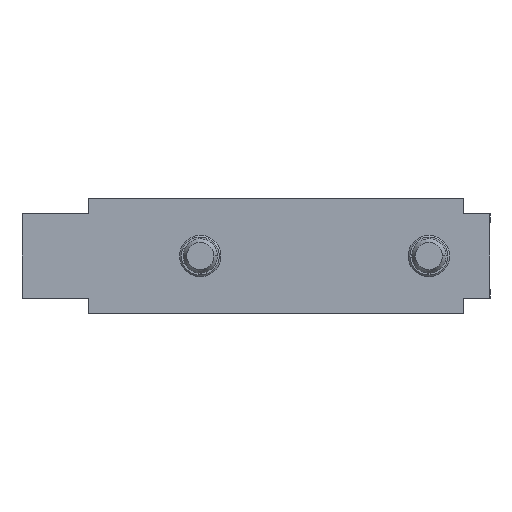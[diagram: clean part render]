
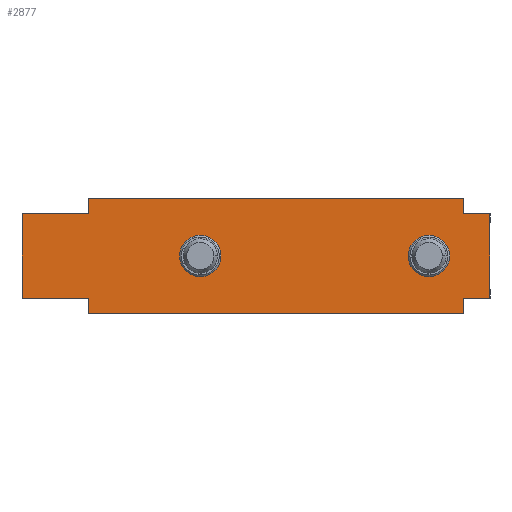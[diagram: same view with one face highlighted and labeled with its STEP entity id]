
A CAD part, left-side view. The second image highlights one B-rep face of the part: STEP entity #2877.
In plain terms, the highlighted planar face has unit normal (-1, 0, 0).
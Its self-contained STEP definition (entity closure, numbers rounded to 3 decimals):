
#13 = VECTOR ( 'NONE', #2948, 1000. ) ;
#14 = LINE ( 'NONE', #2947, #13 ) ;
#48 = VECTOR ( 'NONE', #2970, 1000. ) ;
#52 = LINE ( 'NONE', #2967, #48 ) ;
#90 = ORIENTED_EDGE ( 'NONE', *, *, #667, .F. ) ;
#153 = ORIENTED_EDGE ( 'NONE', *, *, #641, .F. ) ;
#154 = ORIENTED_EDGE ( 'NONE', *, *, #398, .F. ) ;
#155 = ORIENTED_EDGE ( 'NONE', *, *, #662, .F. ) ;
#158 = ORIENTED_EDGE ( 'NONE', *, *, #822, .F. ) ;
#198 = ORIENTED_EDGE ( 'NONE', *, *, #435, .F. ) ;
#199 = ORIENTED_EDGE ( 'NONE', *, *, #495, .F. ) ;
#200 = ORIENTED_EDGE ( 'NONE', *, *, #750, .F. ) ;
#202 = ORIENTED_EDGE ( 'NONE', *, *, #434, .T. ) ;
#231 = ORIENTED_EDGE ( 'NONE', *, *, #581, .T. ) ;
#235 = ORIENTED_EDGE ( 'NONE', *, *, #530, .T. ) ;
#236 = ORIENTED_EDGE ( 'NONE', *, *, #414, .F. ) ;
#237 = ORIENTED_EDGE ( 'NONE', *, *, #710, .F. ) ;
#238 = ORIENTED_EDGE ( 'NONE', *, *, #736, .F. ) ;
#239 = ORIENTED_EDGE ( 'NONE', *, *, #462, .F. ) ;
#240 = ORIENTED_EDGE ( 'NONE', *, *, #492, .F. ) ;
#250 = CARTESIAN_POINT ( 'NONE',  ( 0.65, 47.6, -8. ) ) ;
#254 = CARTESIAN_POINT ( 'NONE',  ( 0.65, -4.9, -8. ) ) ;
#255 = CARTESIAN_POINT ( 'NONE',  ( 0.65, 29.1, 0. ) ) ;
#257 = CARTESIAN_POINT ( 'NONE',  ( 0.65, 47.6, 8. ) ) ;
#258 = CARTESIAN_POINT ( 'NONE',  ( 0.65, -4.9, 5.9 ) ) ;
#260 = CARTESIAN_POINT ( 'NONE',  ( 0.65, -4.9, 8. ) ) ;
#262 = CARTESIAN_POINT ( 'NONE',  ( 0.65, 34.9, 0. ) ) ;
#278 = CARTESIAN_POINT ( 'NONE',  ( 0.65, -8.55, 5.9 ) ) ;
#279 = CARTESIAN_POINT ( 'NONE',  ( 0.65, 56.95, 5.9 ) ) ;
#304 = CARTESIAN_POINT ( 'NONE',  ( 0.65, -2.9, 0. ) ) ;
#306 = CARTESIAN_POINT ( 'NONE',  ( 0.65, 2.9, 0. ) ) ;
#335 = CARTESIAN_POINT ( 'NONE',  ( 0.65, 56.95, -5.9 ) ) ;
#341 = CARTESIAN_POINT ( 'NONE',  ( 0.65, -8.55, -5.9 ) ) ;
#350 = DIRECTION ( 'NONE',  ( 0., 1., 0. ) ) ;
#353 = DIRECTION ( 'NONE',  ( -1., 0., 0. ) ) ;
#388 = CARTESIAN_POINT ( 'NONE',  ( 0.65, 47.6, -5.9 ) ) ;
#398 = EDGE_CURVE ( 'NONE', #1513, #1623, #14, .T. ) ;
#407 = AXIS2_PLACEMENT_3D ( 'NONE', #3034, #3119, #3118 ) ;
#414 = EDGE_CURVE ( 'NONE', #1637, #1624, #52, .T. ) ;
#434 = EDGE_CURVE ( 'NONE', #1640, #3006, #2469, .T. ) ;
#435 = EDGE_CURVE ( 'NONE', #1640, #1643, #2467, .T. ) ;
#462 = EDGE_CURVE ( 'NONE', #1524, #1525, #2014, .T. ) ;
#487 = AXIS2_PLACEMENT_3D ( 'NONE', #1796, #1946, #1952 ) ;
#492 = EDGE_CURVE ( 'NONE', #1525, #1524, #2049, .T. ) ;
#495 = EDGE_CURVE ( 'NONE', #1509, #3006, #2047, .T. ) ;
#521 = AXIS2_PLACEMENT_3D ( 'NONE', #1813, #1809, #1807 ) ;
#530 = EDGE_CURVE ( 'NONE', #1637, #1636, #2088, .T. ) ;
#561 = AXIS2_PLACEMENT_3D ( 'NONE', #3106, #353, #350 ) ;
#581 = EDGE_CURVE ( 'NONE', #1636, #1638, #2136, .T. ) ;
#641 = EDGE_CURVE ( 'NONE', #1510, #1513, #2531, .T. ) ;
#662 = EDGE_CURVE ( 'NONE', #1623, #1661, #2555, .T. ) ;
#667 = EDGE_CURVE ( 'NONE', #1661, #1638, #2565, .T. ) ;
#710 = EDGE_CURVE ( 'NONE', #1643, #1510, #2606, .T. ) ;
#736 = EDGE_CURVE ( 'NONE', #1537, #1535, #2641, .T. ) ;
#750 = EDGE_CURVE ( 'NONE', #1624, #1509, #2656, .T. ) ;
#816 = AXIS2_PLACEMENT_3D ( 'NONE', #849, #848, #847 ) ;
#822 = EDGE_CURVE ( 'NONE', #1535, #1537, #2732, .T. ) ;
#839 = PLANE ( 'NONE',  #816 ) ;
#847 = DIRECTION ( 'NONE',  ( 0., -1., 0. ) ) ;
#848 = DIRECTION ( 'NONE',  ( 1., 0., 0. ) ) ;
#849 = CARTESIAN_POINT ( 'NONE',  ( 0.65, 47.6, -8. ) ) ;
#1123 = CARTESIAN_POINT ( 'NONE',  ( 0.65, 47.6, 5.9 ) ) ;
#1412 = DIRECTION ( 'NONE',  ( 0., 0., 1. ) ) ;
#1413 = CARTESIAN_POINT ( 'NONE',  ( 0.65, 47.6, -8. ) ) ;
#1445 = DIRECTION ( 'NONE',  ( 0., 1., 0. ) ) ;
#1447 = CARTESIAN_POINT ( 'NONE',  ( 0.65, 47.6, -5.9 ) ) ;
#1488 = DIRECTION ( 'NONE',  ( 0., 0., 1. ) ) ;
#1489 = CARTESIAN_POINT ( 'NONE',  ( 0.65, 47.6, -8. ) ) ;
#1502 = DIRECTION ( 'NONE',  ( 0., -1., 0. ) ) ;
#1503 = CARTESIAN_POINT ( 'NONE',  ( 0.65, 47.6, 5.9 ) ) ;
#1509 = VERTEX_POINT ( 'NONE', #341 ) ;
#1510 = VERTEX_POINT ( 'NONE', #388 ) ;
#1513 = VERTEX_POINT ( 'NONE', #335 ) ;
#1524 = VERTEX_POINT ( 'NONE', #306 ) ;
#1525 = VERTEX_POINT ( 'NONE', #304 ) ;
#1535 = VERTEX_POINT ( 'NONE', #262 ) ;
#1537 = VERTEX_POINT ( 'NONE', #255 ) ;
#1623 = VERTEX_POINT ( 'NONE', #279 ) ;
#1624 = VERTEX_POINT ( 'NONE', #278 ) ;
#1636 = VERTEX_POINT ( 'NONE', #260 ) ;
#1637 = VERTEX_POINT ( 'NONE', #258 ) ;
#1638 = VERTEX_POINT ( 'NONE', #257 ) ;
#1640 = VERTEX_POINT ( 'NONE', #254 ) ;
#1643 = VERTEX_POINT ( 'NONE', #250 ) ;
#1661 = VERTEX_POINT ( 'NONE', #1123 ) ;
#1729 = FACE_BOUND ( 'NONE', #2253, .T. ) ;
#1732 = FACE_BOUND ( 'NONE', #2290, .T. ) ;
#1738 = FACE_OUTER_BOUND ( 'NONE', #2289, .T. ) ;
#1768 = CARTESIAN_POINT ( 'NONE',  ( 0.65, -4.9, -8. ) ) ;
#1779 = DIRECTION ( 'NONE',  ( 0., 0., 1. ) ) ;
#1796 = CARTESIAN_POINT ( 'NONE',  ( 0.65, 0., 0. ) ) ;
#1804 = CARTESIAN_POINT ( 'NONE',  ( 0.65, -8.55, -5.9 ) ) ;
#1807 = DIRECTION ( 'NONE',  ( 0., 1., 0. ) ) ;
#1809 = DIRECTION ( 'NONE',  ( -1., 0., 0. ) ) ;
#1813 = CARTESIAN_POINT ( 'NONE',  ( 0.65, 0., 0. ) ) ;
#1825 = DIRECTION ( 'NONE',  ( 0., 1., 0. ) ) ;
#1925 = CARTESIAN_POINT ( 'NONE',  ( 0.65, 47.6, 8. ) ) ;
#1933 = DIRECTION ( 'NONE',  ( 0., 1., 0. ) ) ;
#1946 = DIRECTION ( 'NONE',  ( -1., 0., 0. ) ) ;
#1952 = DIRECTION ( 'NONE',  ( 0., 1., 0. ) ) ;
#2014 = CIRCLE ( 'NONE', #487, 2.9 ) ;
#2047 = LINE ( 'NONE', #1804, #2052 ) ;
#2049 = CIRCLE ( 'NONE', #521, 2.9 ) ;
#2052 = VECTOR ( 'NONE', #1825, 1000. ) ;
#2086 = VECTOR ( 'NONE', #1779, 1000. ) ;
#2088 = LINE ( 'NONE', #1768, #2086 ) ;
#2136 = LINE ( 'NONE', #1925, #2137 ) ;
#2137 = VECTOR ( 'NONE', #1933, 1000. ) ;
#2164 = CARTESIAN_POINT ( 'NONE',  ( 0.65, -4.9, -5.9 ) ) ;
#2253 = EDGE_LOOP ( 'NONE', ( #158, #238 ) ) ;
#2289 = EDGE_LOOP ( 'NONE', ( #231, #90, #155, #154, #153, #237, #198, #202, #199, #200, #236, #235 ) ) ;
#2290 = EDGE_LOOP ( 'NONE', ( #239, #240 ) ) ;
#2467 = LINE ( 'NONE', #3001, #3125 ) ;
#2469 = LINE ( 'NONE', #2999, #3124 ) ;
#2531 = LINE ( 'NONE', #1447, #2532 ) ;
#2532 = VECTOR ( 'NONE', #1445, 1000. ) ;
#2555 = LINE ( 'NONE', #1503, #2556 ) ;
#2556 = VECTOR ( 'NONE', #1502, 1000. ) ;
#2565 = LINE ( 'NONE', #1489, #2566 ) ;
#2566 = VECTOR ( 'NONE', #1488, 1000. ) ;
#2599 = VECTOR ( 'NONE', #1412, 1000. ) ;
#2606 = LINE ( 'NONE', #1413, #2599 ) ;
#2641 = CIRCLE ( 'NONE', #407, 2.9 ) ;
#2656 = LINE ( 'NONE', #3027, #2657 ) ;
#2657 = VECTOR ( 'NONE', #3025, 1000. ) ;
#2732 = CIRCLE ( 'NONE', #561, 2.9 ) ;
#2877 = ADVANCED_FACE ( 'NONE', ( #1729, #1732, #1738 ), #839, .F. ) ;
#2947 = CARTESIAN_POINT ( 'NONE',  ( 0.65, 56.95, 5.9 ) ) ;
#2948 = DIRECTION ( 'NONE',  ( 0., 0., 1. ) ) ;
#2967 = CARTESIAN_POINT ( 'NONE',  ( 0.65, -8.55, 5.9 ) ) ;
#2970 = DIRECTION ( 'NONE',  ( 0., -1., 0. ) ) ;
#2999 = CARTESIAN_POINT ( 'NONE',  ( 0.65, -4.9, -8. ) ) ;
#3001 = CARTESIAN_POINT ( 'NONE',  ( 0.65, 47.6, -8. ) ) ;
#3002 = DIRECTION ( 'NONE',  ( 0., 0., 1. ) ) ;
#3004 = DIRECTION ( 'NONE',  ( 0., 1., 0. ) ) ;
#3006 = VERTEX_POINT ( 'NONE', #2164 ) ;
#3025 = DIRECTION ( 'NONE',  ( 0., 0., -1. ) ) ;
#3027 = CARTESIAN_POINT ( 'NONE',  ( 0.65, -8.55, 5.9 ) ) ;
#3034 = CARTESIAN_POINT ( 'NONE',  ( 0.65, 32., 0. ) ) ;
#3106 = CARTESIAN_POINT ( 'NONE',  ( 0.65, 32., 0. ) ) ;
#3118 = DIRECTION ( 'NONE',  ( 0., 1., 0. ) ) ;
#3119 = DIRECTION ( 'NONE',  ( -1., 0., 0. ) ) ;
#3124 = VECTOR ( 'NONE', #3002, 1000. ) ;
#3125 = VECTOR ( 'NONE', #3004, 1000. ) ;
